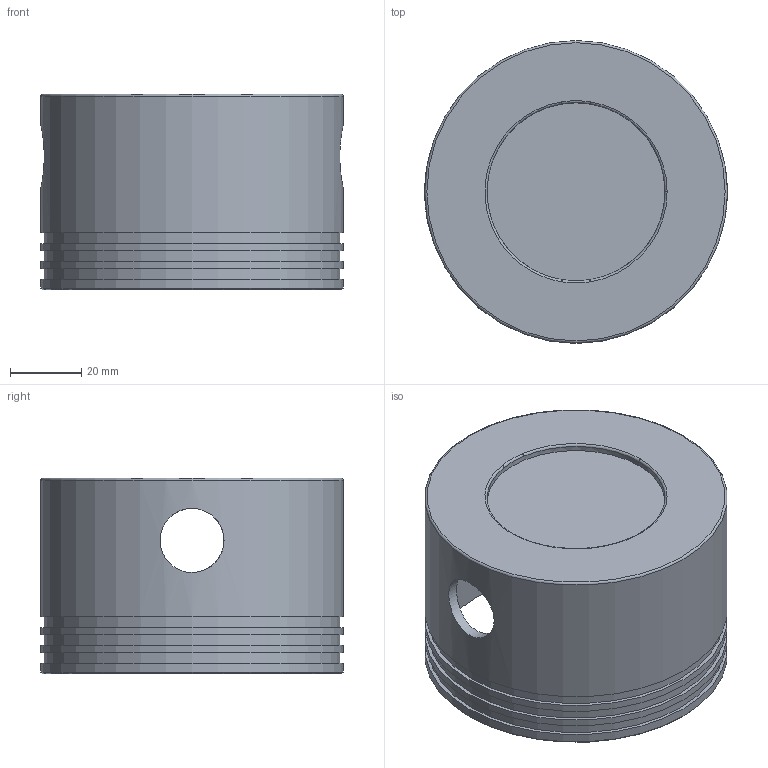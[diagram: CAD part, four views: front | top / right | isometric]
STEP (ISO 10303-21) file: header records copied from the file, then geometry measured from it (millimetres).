
FILE_DESCRIPTION(('FreeCAD Model'),'2;1');
FILE_NAME('Open CASCADE Shape Model','2025-09-03T19:20:56',('FreeCAD'),( 'FreeCAD'),'Open CASCADE STEP processor 7.8','FreeCAD','Unknown');
FILE_SCHEMA(('AUTOMOTIVE_DESIGN { 1 0 10303 214 1 1 1 1 }'));
Length unit declared in the file: millimetre
Products named in the file (1): Open CASCADE STEP translator 7.8 1
Bounding box: 85 x 85 x 55 mm (x, y, z)
Volume: 63980.4 mm3; surface area: 39097.3 mm2
Topology: 1 solids, 1 shells, 29 faces, 57 edges, 36 vertices
Faces by surface type: cylinder 11, plane 10, torus 5, cone 2, bspline 1
Full cylindrical faces by diameter (mm): 18 x2, 50 x1, 79 x1, 83 x3, 85 x4
Entity records: 1224 total; most frequent: CARTESIAN_POINT 598, DIRECTION 139, ORIENTED_EDGE 114, AXIS2_PLACEMENT_3D 62, EDGE_CURVE 57, FACE_BOUND 39, EDGE_LOOP 39, VERTEX_POINT 36
